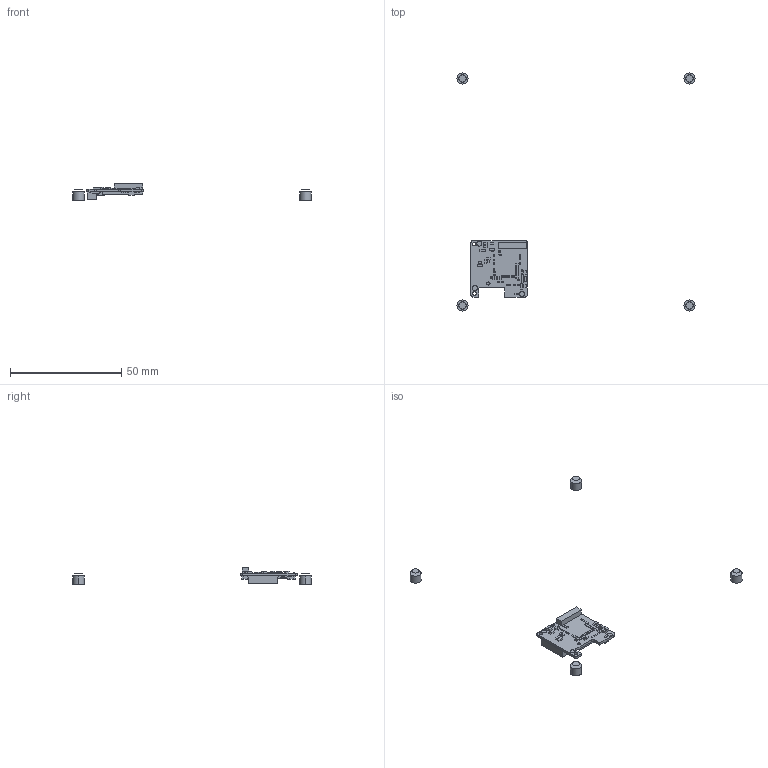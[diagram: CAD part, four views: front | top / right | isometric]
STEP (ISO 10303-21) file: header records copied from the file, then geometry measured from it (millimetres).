
FILE_DESCRIPTION(/* description */ ('PCB Design'),/* implementation_level */ '2;1');
FILE_NAME(/* name */ 'Mezz_Quad_Analog_R1',/* time_stamp */ '2017-08-31T11:27:42+02:00',/* author */ ('xxxxx'),/* organization */ (''),/* preprocessor_version */ 'ST-DEVELOPER v15',/* originating_system */ 'allegro_16.6S050',/* authorisation */ '');
FILE_SCHEMA (('AUTOMOTIVE_DESIGN'));
Length unit declared in the file: millimetre
Products named in the file (17): MEZZ_QUAD_ANALOG_R1; BOARD; COMPONENTS; C0201_S; R0201; R0402; FID40; DF40HC-50DS-0P4V; C0402; C0603; X32_3P2X2P5; SOT23-5; TQFP_128; 5041950870; FB0603; TP_PTH_035_018_MIL; MU98K130
Assembly tree (112 placements, depth 3):
  MEZZ_QUAD_ANALOG_R1
    BOARD
    COMPONENTS
      C0201_S  x28
      R0201  x17
      R0402  x23
      FID40  x6
      DF40HC-50DS-0P4V
      C0402  x15
      C0603  x5
      X32_3P2X2P5
      SOT23-5  x2
      TQFP_128
      5041950870
      FB0603  x5
      TP_PTH_035_018_MIL
      MU98K130  x4
Bounding box: 107.21 x 107.21 x 7.56 mm (x, y, z)
Surface area: 3433.2 mm2 (no closed solid volume)
Topology: 0 solids, 115 shells, 692 faces, 1504 edges, 924 vertices
Faces by surface type: plane 650, cylinder 42
Entity records: 4179 total; most frequent: DIRECTION 502, ORIENTED_EDGE 480, AXIS2_PLACEMENT_3D 376, CARTESIAN_POINT 369, EDGE_CURVE 259, VECTOR 219, LINE 219, VERTEX_POINT 198
